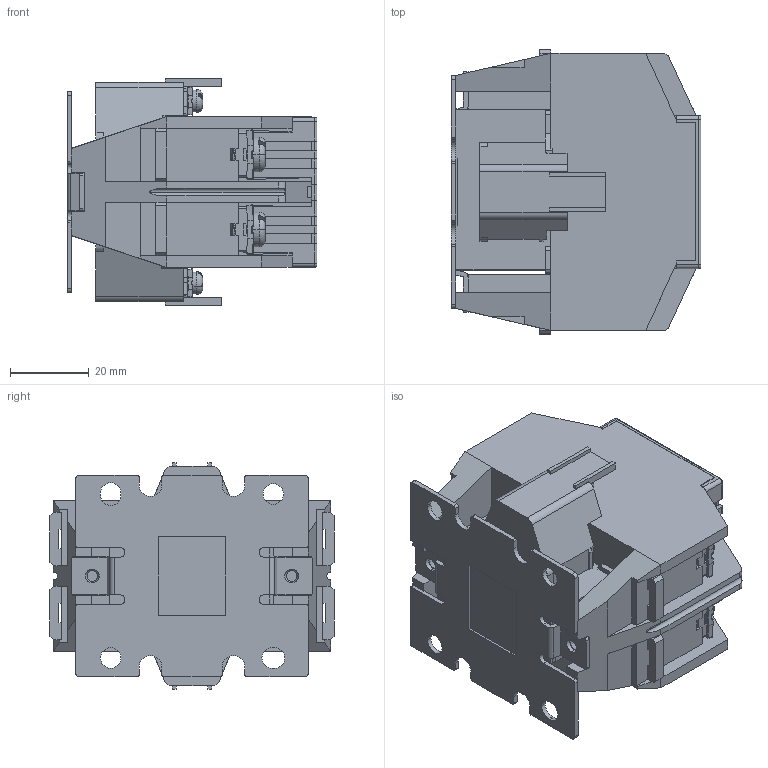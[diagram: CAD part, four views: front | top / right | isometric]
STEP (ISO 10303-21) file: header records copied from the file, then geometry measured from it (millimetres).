
FILE_DESCRIPTION (( 'STEP AP203' ), '1' );
FILE_NAME ('SMC 俋倛.STEP', '2023-08-21T09:48:14', ( 'admin' ), ( '' ), 'SwSTEP 2.0', 'SolidWorks 2022', '' );
FILE_SCHEMA (( 'CONFIG_CONTROL_DESIGN' ));
Products named in the file (1): SMC 俋倛
Bounding box: 63.3 x 72 x 57.5 mm (x, y, z)
Volume: 124719 mm3; surface area: 36924.1 mm2
Topology: 1 solids, 35 shells, 2595 faces, 7125 edges, 4546 vertices
Faces by surface type: plane 1695, cylinder 625, bspline 136, torus 131, cone 4, sphere 4
Entity records: 92661 total; most frequent: CARTESIAN_POINT 28594, ORIENTED_EDGE 14250, DIRECTION 12154, EDGE_CURVE 7125, LINE 4988, VECTOR 4988, VERTEX_POINT 4546, AXIS2_PLACEMENT_3D 3583
